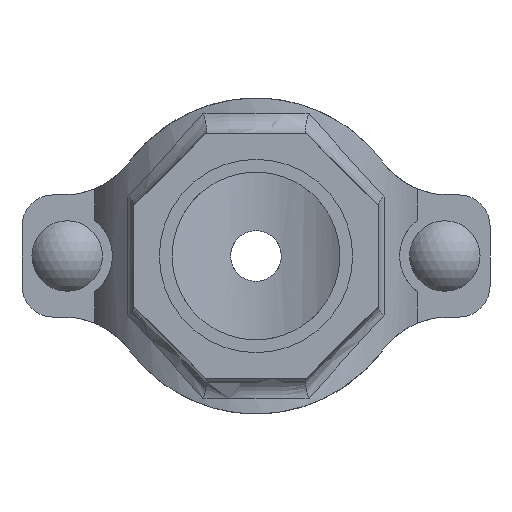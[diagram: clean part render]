
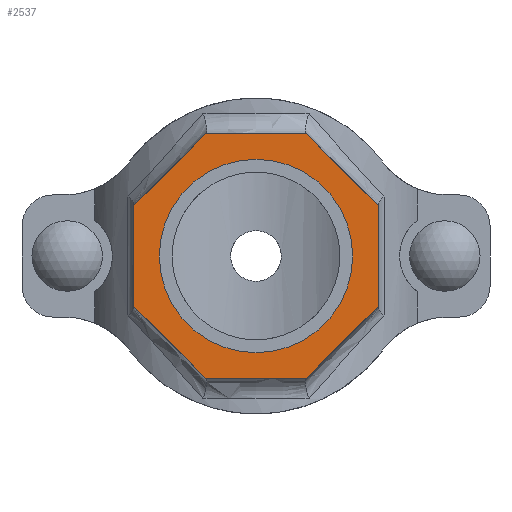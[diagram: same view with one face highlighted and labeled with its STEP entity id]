
A CAD part, front view. The second image highlights one B-rep face of the part: STEP entity #2537.
In plain terms, the highlighted planar face has unit normal (0, -1, 0) as drawn and (0, 1, 0) by its records, which use the part's own axes.
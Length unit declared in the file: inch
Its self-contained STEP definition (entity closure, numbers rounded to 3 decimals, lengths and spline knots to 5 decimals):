
#186=FACE_BOUND('',#457,.T.);
#305=FACE_OUTER_BOUND('',#456,.T.);
#456=EDGE_LOOP('',(#2126,#2127,#2128,#2129,#2130,#2131,#2132,#2133));
#457=EDGE_LOOP('',(#2134));
#594=LINE('',#4619,#780);
#597=LINE('',#4624,#783);
#599=LINE('',#4628,#785);
#601=LINE('',#4632,#787);
#637=LINE('',#5053,#823);
#639=LINE('',#5057,#825);
#641=LINE('',#5061,#827);
#643=LINE('',#5064,#829);
#780=VECTOR('',#3278,0.3937);
#783=VECTOR('',#3283,0.3937);
#785=VECTOR('',#3287,0.3937);
#787=VECTOR('',#3291,0.3937);
#823=VECTOR('',#3415,0.3937);
#825=VECTOR('',#3419,0.3937);
#827=VECTOR('',#3423,0.3937);
#829=VECTOR('',#3427,0.3937);
#915=CIRCLE('',#2798,1.1875);
#1097=VERTEX_POINT('',#4616);
#1098=VERTEX_POINT('',#4618);
#1099=VERTEX_POINT('',#4622);
#1100=VERTEX_POINT('',#4626);
#1101=VERTEX_POINT('',#4630);
#1132=VERTEX_POINT('',#4902);
#1156=VERTEX_POINT('',#5052);
#1157=VERTEX_POINT('',#5056);
#1158=VERTEX_POINT('',#5060);
#1408=EDGE_CURVE('',#1098,#1097,#594,.T.);
#1411=EDGE_CURVE('',#1097,#1099,#597,.T.);
#1413=EDGE_CURVE('',#1099,#1100,#599,.T.);
#1415=EDGE_CURVE('',#1100,#1101,#601,.T.);
#1457=EDGE_CURVE('',#1132,#1132,#915,.T.);
#1489=EDGE_CURVE('',#1156,#1098,#637,.T.);
#1491=EDGE_CURVE('',#1157,#1156,#639,.T.);
#1493=EDGE_CURVE('',#1158,#1157,#641,.T.);
#1495=EDGE_CURVE('',#1101,#1158,#643,.T.);
#2126=ORIENTED_EDGE('',*,*,#1495,.T.);
#2127=ORIENTED_EDGE('',*,*,#1493,.T.);
#2128=ORIENTED_EDGE('',*,*,#1491,.T.);
#2129=ORIENTED_EDGE('',*,*,#1489,.T.);
#2130=ORIENTED_EDGE('',*,*,#1408,.T.);
#2131=ORIENTED_EDGE('',*,*,#1411,.T.);
#2132=ORIENTED_EDGE('',*,*,#1413,.T.);
#2133=ORIENTED_EDGE('',*,*,#1415,.T.);
#2134=ORIENTED_EDGE('',*,*,#1457,.T.);
#2278=PLANE('',#2821);
#2537=ADVANCED_FACE('',(#305,#186),#2278,.T.);
#2798=AXIS2_PLACEMENT_3D('',#4903,#3361,#3362);
#2821=AXIS2_PLACEMENT_3D('',#5065,#3428,#3429);
#3278=DIRECTION('',(0.,0.,1.));
#3283=DIRECTION('',(0.707,0.,0.707));
#3287=DIRECTION('',(1.,0.,0.));
#3291=DIRECTION('',(0.707,0.,-0.707));
#3361=DIRECTION('center_axis',(0.,-1.,0.));
#3362=DIRECTION('ref_axis',(-1.,0.,0.));
#3415=DIRECTION('',(-0.707,0.,0.707));
#3419=DIRECTION('',(-1.,0.,0.));
#3423=DIRECTION('',(-0.707,0.,-0.707));
#3427=DIRECTION('',(0.,0.,-1.));
#3428=DIRECTION('center_axis',(0.,1.,0.));
#3429=DIRECTION('ref_axis',(0.,0.,1.));
#4616=CARTESIAN_POINT('',(-1.5,3.5,0.62132));
#4618=CARTESIAN_POINT('',(-1.5,3.5,-0.62132));
#4619=CARTESIAN_POINT('',(-1.5,3.5,0.62132));
#4622=CARTESIAN_POINT('',(-0.62132,3.5,1.5));
#4624=CARTESIAN_POINT('',(-0.62132,3.5,1.5));
#4626=CARTESIAN_POINT('',(0.62132,3.5,1.5));
#4628=CARTESIAN_POINT('',(0.62132,3.5,1.5));
#4630=CARTESIAN_POINT('',(1.5,3.5,0.62132));
#4632=CARTESIAN_POINT('',(1.5,3.5,0.62132));
#4902=CARTESIAN_POINT('',(1.1875,3.5,0.));
#4903=CARTESIAN_POINT('Origin',(0.,3.5,0.));
#5052=CARTESIAN_POINT('',(-0.62132,3.5,-1.5));
#5053=CARTESIAN_POINT('',(-1.5,3.5,-0.62132));
#5056=CARTESIAN_POINT('',(0.62132,3.5,-1.5));
#5057=CARTESIAN_POINT('',(-0.62132,3.5,-1.5));
#5060=CARTESIAN_POINT('',(1.5,3.5,-0.62132));
#5061=CARTESIAN_POINT('',(0.62132,3.5,-1.5));
#5064=CARTESIAN_POINT('',(1.5,3.5,-0.62132));
#5065=CARTESIAN_POINT('Origin',(0.,3.5,0.));
